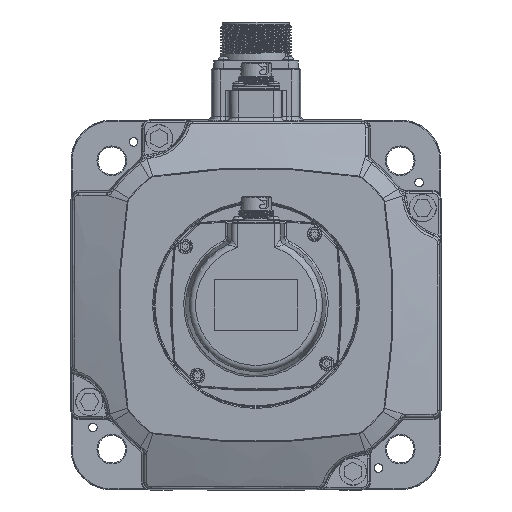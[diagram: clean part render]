
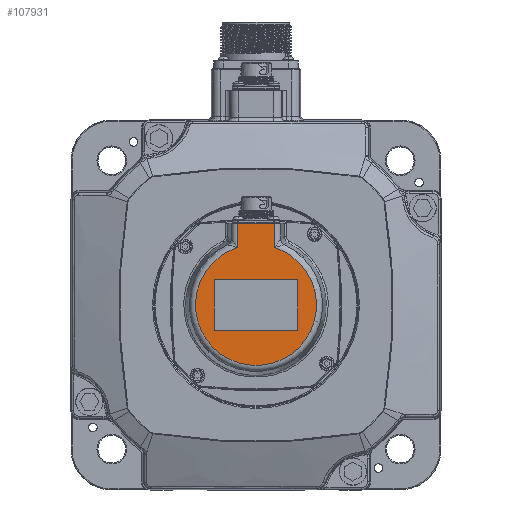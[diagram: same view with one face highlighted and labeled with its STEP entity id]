
A CAD part, front view. The second image highlights one B-rep face of the part: STEP entity #107931.
In plain terms, the highlighted planar face has unit normal (0, -1, 0).
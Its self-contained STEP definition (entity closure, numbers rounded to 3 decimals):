
#154=DIRECTION('',(1.,0.,0.));
#155=VECTOR('',#154,18.271);
#156=CARTESIAN_POINT('',(-9.135,-192.3,40.));
#157=LINE('',#156,#155);
#32973=CARTESIAN_POINT('',(-9.135,-192.3,
28.192));
#32985=DIRECTION('',(0.,0.,-1.));
#32986=VECTOR('',#32985,11.808);
#32987=CARTESIAN_POINT('',(-9.135,-192.3,40.));
#32988=LINE('',#32987,#32986);
#32989=DIRECTION('',(0.,0.,-1.));
#32990=VECTOR('',#32989,11.808);
#32991=CARTESIAN_POINT('',(9.135,-192.3,40.));
#32992=LINE('',#32991,#32990);
#32993=CARTESIAN_POINT('',(0.,-192.3,0.));
#32994=DIRECTION('',(0.,1.,0.));
#32995=DIRECTION('',(0.308,0.,0.951));
#32996=AXIS2_PLACEMENT_3D('',#32993,#32994,#32995);
#32998=DIRECTION('',(0.,0.,-1.));
#32999=VECTOR('',#32998,24.);
#33000=CARTESIAN_POINT('',(-20.5,-192.3,12.));
#33001=LINE('',#33000,#32999);
#33002=DIRECTION('',(1.,0.,0.));
#33003=VECTOR('',#33002,40.);
#33004=CARTESIAN_POINT('',(-20.,-192.3,-12.5));
#33005=LINE('',#33004,#33003);
#33006=DIRECTION('',(0.,0.,1.));
#33007=VECTOR('',#33006,24.);
#33008=CARTESIAN_POINT('',(20.5,-192.3,-12.));
#33009=LINE('',#33008,#33007);
#33010=DIRECTION('',(-1.,0.,0.));
#33011=VECTOR('',#33010,40.);
#33012=CARTESIAN_POINT('',(20.,-192.3,12.5));
#33013=LINE('',#33012,#33011);
#33014=CARTESIAN_POINT('',(9.135,-192.3,
28.192));
#33093=CARTESIAN_POINT('',(-20.,-192.3,12.));
#33094=DIRECTION('',(0.,1.,0.));
#33095=DIRECTION('',(-1.,0.,0.));
#33096=AXIS2_PLACEMENT_3D('',#33093,#33094,#33095);
#33142=CARTESIAN_POINT('',(20.,-192.3,12.));
#33143=DIRECTION('',(0.,1.,0.));
#33144=DIRECTION('',(0.,0.,1.));
#33145=AXIS2_PLACEMENT_3D('',#33142,#33143,#33144);
#33155=CARTESIAN_POINT('',(20.,-192.3,-12.));
#33156=DIRECTION('',(0.,1.,0.));
#33157=DIRECTION('',(1.,0.,0.));
#33158=AXIS2_PLACEMENT_3D('',#33155,#33156,#33157);
#33168=CARTESIAN_POINT('',(-20.,-192.3,-12.));
#33169=DIRECTION('',(0.,1.,0.));
#33170=DIRECTION('',(0.,0.,-1.));
#33171=AXIS2_PLACEMENT_3D('',#33168,#33169,#33170);
#48788=CARTESIAN_POINT('',(-9.135,-192.3,40.));
#48790=VERTEX_POINT('',#48788);
#48791=CARTESIAN_POINT('',(9.135,-192.3,40.));
#48793=VERTEX_POINT('',#48791);
#48796=VERTEX_POINT('',#32973);
#48798=VERTEX_POINT('',#33014);
#48955=CARTESIAN_POINT('',(-20.5,-192.3,12.));
#48956=VERTEX_POINT('',#48955);
#48957=CARTESIAN_POINT('',(-20.,-192.3,12.5));
#48958=VERTEX_POINT('',#48957);
#48963=CARTESIAN_POINT('',(-20.,-192.3,-12.5));
#48964=VERTEX_POINT('',#48963);
#48965=CARTESIAN_POINT('',(-20.5,-192.3,-12.));
#48966=VERTEX_POINT('',#48965);
#48971=CARTESIAN_POINT('',(20.5,-192.3,-12.));
#48972=VERTEX_POINT('',#48971);
#48973=CARTESIAN_POINT('',(20.,-192.3,-12.5));
#48974=VERTEX_POINT('',#48973);
#48979=CARTESIAN_POINT('',(20.,-192.3,12.5));
#48980=VERTEX_POINT('',#48979);
#48981=CARTESIAN_POINT('',(20.5,-192.3,12.));
#48982=VERTEX_POINT('',#48981);
#107901=CARTESIAN_POINT('',(0.,-192.3,0.));
#107902=DIRECTION('',(0.,1.,0.));
#107903=DIRECTION('',(1.,0.,0.));
#107904=AXIS2_PLACEMENT_3D('',#107901,#107902,#107903);
#107905=PLANE('',#107904);
#107906=ORIENTED_EDGE('',*,*,#107824,.F.);
#107907=ORIENTED_EDGE('',*,*,#52557,.T.);
#107909=ORIENTED_EDGE('',*,*,#107908,.T.);
#107910=ORIENTED_EDGE('',*,*,#107892,.T.);
#107911=EDGE_LOOP('',(#107906,#107907,#107909,#107910));
#107912=FACE_OUTER_BOUND('',#107911,.F.);
#107914=ORIENTED_EDGE('',*,*,#107913,.T.);
#107916=ORIENTED_EDGE('',*,*,#107915,.F.);
#107918=ORIENTED_EDGE('',*,*,#107917,.T.);
#107920=ORIENTED_EDGE('',*,*,#107919,.F.);
#107922=ORIENTED_EDGE('',*,*,#107921,.T.);
#107924=ORIENTED_EDGE('',*,*,#107923,.F.);
#107926=ORIENTED_EDGE('',*,*,#107925,.T.);
#107928=ORIENTED_EDGE('',*,*,#107927,.F.);
#107929=EDGE_LOOP('',(#107914,#107916,#107918,#107920,#107922,#107924,#107926,
#107928));
#107930=FACE_BOUND('',#107929,.F.);
#107931=ADVANCED_FACE('',(#107912,#107930),#107905,.F.);
#32997=CIRCLE('',#32996,29.635);
#33097=CIRCLE('',#33096,0.5);
#33146=CIRCLE('',#33145,0.5);
#33159=CIRCLE('',#33158,0.5);
#33172=CIRCLE('',#33171,0.5);
#52557=EDGE_CURVE('',#48790,#48793,#157,.T.);
#107824=EDGE_CURVE('',#48790,#48796,#32988,.T.);
#107892=EDGE_CURVE('',#48798,#48796,#32997,.T.);
#107908=EDGE_CURVE('',#48793,#48798,#32992,.T.);
#107913=EDGE_CURVE('',#48956,#48966,#33001,.T.);
#107915=EDGE_CURVE('',#48964,#48966,#33172,.T.);
#107917=EDGE_CURVE('',#48964,#48974,#33005,.T.);
#107919=EDGE_CURVE('',#48972,#48974,#33159,.T.);
#107921=EDGE_CURVE('',#48972,#48982,#33009,.T.);
#107923=EDGE_CURVE('',#48980,#48982,#33146,.T.);
#107925=EDGE_CURVE('',#48980,#48958,#33013,.T.);
#107927=EDGE_CURVE('',#48956,#48958,#33097,.T.);
